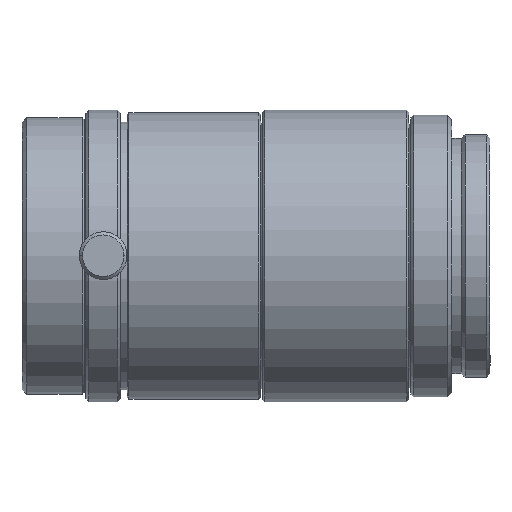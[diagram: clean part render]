
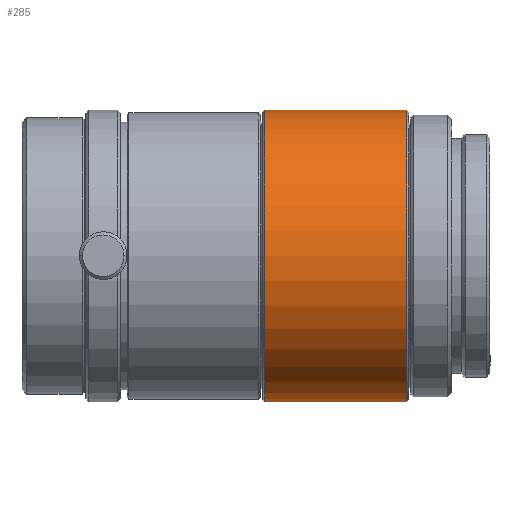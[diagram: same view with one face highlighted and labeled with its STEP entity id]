
A CAD part, top view. The second image highlights one B-rep face of the part: STEP entity #285.
In plain terms, the highlighted cylindrical face has radius 15.25 mm (diameter 30.5 mm), a partial arc.
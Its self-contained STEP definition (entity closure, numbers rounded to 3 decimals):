
#285 = ADVANCED_FACE ( 'NONE', ( #1322 ), #2770, .T. ) ;
#378 = CARTESIAN_POINT ( 'NONE',  ( -22.2, -15.25, 0. ) ) ;
#438 = DIRECTION ( 'NONE',  ( 0., 1., 0. ) ) ;
#539 = VERTEX_POINT ( 'NONE', #2309 ) ;
#561 = VECTOR ( 'NONE', #965, 1000. ) ;
#611 = EDGE_CURVE ( 'NONE', #539, #3018, #1686, .T. ) ;
#675 = EDGE_CURVE ( 'NONE', #2585, #964, #3729, .T. ) ;
#738 = CARTESIAN_POINT ( 'NONE',  ( -22.2, 0., 0. ) ) ;
#964 = VERTEX_POINT ( 'NONE', #378 ) ;
#965 = DIRECTION ( 'NONE',  ( 1., 0., 0. ) ) ;
#1032 = CARTESIAN_POINT ( 'NONE',  ( -22.2, 15.25, 0. ) ) ;
#1066 = VECTOR ( 'NONE', #2004, 1000. ) ;
#1322 = FACE_OUTER_BOUND ( 'NONE', #3061, .T. ) ;
#1341 = AXIS2_PLACEMENT_3D ( 'NONE', #738, #2482, #438 ) ;
#1351 = DIRECTION ( 'NONE',  ( 1., 0., 0. ) ) ;
#1453 = ORIENTED_EDGE ( 'NONE', *, *, #2821, .T. ) ;
#1686 = CIRCLE ( 'NONE', #3354, 15.25 ) ;
#1806 = CARTESIAN_POINT ( 'NONE',  ( -37.1, -15.25, 0. ) ) ;
#1937 = LINE ( 'NONE', #2582, #1066 ) ;
#2004 = DIRECTION ( 'NONE',  ( 1., 0., 0. ) ) ;
#2107 = ORIENTED_EDGE ( 'NONE', *, *, #611, .T. ) ;
#2234 = DIRECTION ( 'NONE',  ( 0., 1., 0. ) ) ;
#2300 = CARTESIAN_POINT ( 'NONE',  ( 0., 0., 0. ) ) ;
#2309 = CARTESIAN_POINT ( 'NONE',  ( -37.1, 15.25, 0. ) ) ;
#2409 = CARTESIAN_POINT ( 'NONE',  ( 0., 15.25, 0. ) ) ;
#2482 = DIRECTION ( 'NONE',  ( 1., 0., 0. ) ) ;
#2582 = CARTESIAN_POINT ( 'NONE',  ( 0., -15.25, 0. ) ) ;
#2585 = VERTEX_POINT ( 'NONE', #1032 ) ;
#2770 = CYLINDRICAL_SURFACE ( 'NONE', #3168, 15.25 ) ;
#2786 = LINE ( 'NONE', #2409, #561 ) ;
#2810 = DIRECTION ( 'NONE',  ( 1., 0., 0. ) ) ;
#2821 = EDGE_CURVE ( 'NONE', #3018, #964, #1937, .T. ) ;
#3018 = VERTEX_POINT ( 'NONE', #1806 ) ;
#3061 = EDGE_LOOP ( 'NONE', ( #2107, #1453, #3111, #3411 ) ) ;
#3111 = ORIENTED_EDGE ( 'NONE', *, *, #675, .F. ) ;
#3168 = AXIS2_PLACEMENT_3D ( 'NONE', #2300, #2810, #2234 ) ;
#3354 = AXIS2_PLACEMENT_3D ( 'NONE', #3671, #1351, #3377 ) ;
#3377 = DIRECTION ( 'NONE',  ( 0., 1., 0. ) ) ;
#3411 = ORIENTED_EDGE ( 'NONE', *, *, #3601, .F. ) ;
#3601 = EDGE_CURVE ( 'NONE', #539, #2585, #2786, .T. ) ;
#3671 = CARTESIAN_POINT ( 'NONE',  ( -37.1, 0., 0. ) ) ;
#3729 = CIRCLE ( 'NONE', #1341, 15.25 ) ;
